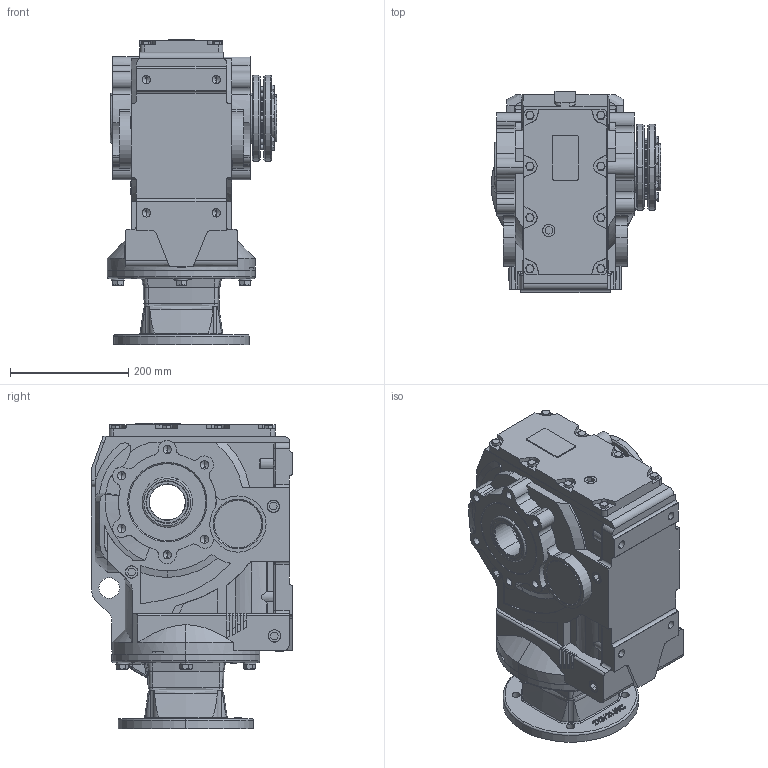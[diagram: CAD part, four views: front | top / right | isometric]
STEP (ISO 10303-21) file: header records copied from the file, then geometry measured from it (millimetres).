
FILE_DESCRIPTION (( 'STEP AP203' ), '1' );
FILE_NAME ('KAN87-213TC-A-POWER LOCK.STEP', '2020-12-04T06:15:41', ( 'Microsoft' ), ( 'Microsoft' ), 'SwSTEP 2.0', 'SolidWorks 2012', '' );
FILE_SCHEMA (( 'CONFIG_CONTROL_DESIGN' ));
Products named in the file (1): KAN87-213TC-A-POWER LOCK
Bounding box: 286 x 340.5 x 515.5 mm (x, y, z)
Volume: 23700421.2 mm3; surface area: 1024365.8 mm2
Topology: 2 solids, 26 shells, 1743 faces, 4434 edges, 2809 vertices
Faces by surface type: plane 706, cylinder 500, cone 332, bspline 149, torus 56
Entity records: 64560 total; most frequent: CARTESIAN_POINT 23277, ORIENTED_EDGE 8732, DIRECTION 8317, EDGE_CURVE 4366, AXIS2_PLACEMENT_3D 3060, VERTEX_POINT 2809, LINE 2197, VECTOR 2197
